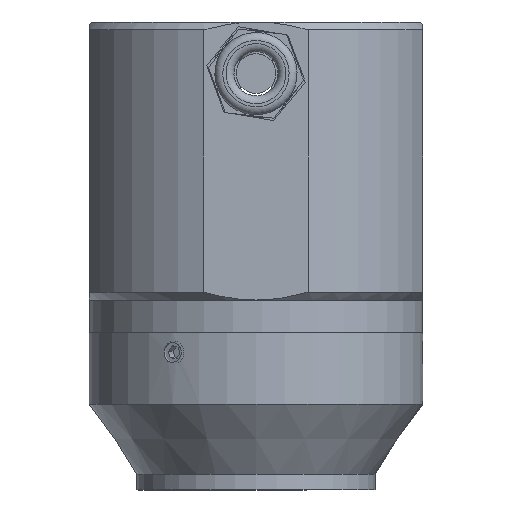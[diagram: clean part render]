
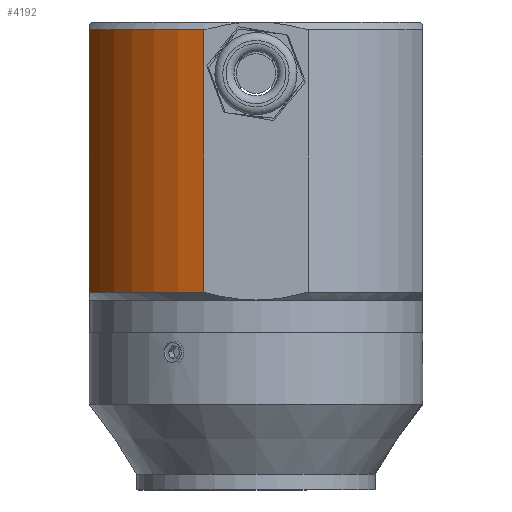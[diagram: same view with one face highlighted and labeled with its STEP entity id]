
A CAD part, left-side view. The second image highlights one B-rep face of the part: STEP entity #4192.
In plain terms, the highlighted cylindrical face has radius 22 mm (diameter 44 mm), a partial arc.
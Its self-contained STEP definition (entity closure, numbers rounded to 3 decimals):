
#43 = AXIS2_PLACEMENT_3D ( 'NONE', #1463, #3548, #1443 ) ;
#105 = DIRECTION ( 'NONE',  ( 0., 0., -1. ) ) ;
#313 = AXIS2_PLACEMENT_3D ( 'NONE', #2823, #3287, #719 ) ;
#539 = LINE ( 'NONE', #1376, #3157 ) ;
#719 = DIRECTION ( 'NONE',  ( -1., 0., 0. ) ) ;
#829 = CYLINDRICAL_SURFACE ( 'NONE', #43, 22. ) ;
#1087 = EDGE_CURVE ( 'NONE', #1324, #3731, #539, .T. ) ;
#1099 = DIRECTION ( 'NONE',  ( 1., 0., 0. ) ) ;
#1324 = VERTEX_POINT ( 'NONE', #1400 ) ;
#1345 = CARTESIAN_POINT ( 'NONE',  ( 11.248, 2739.291, 19.515 ) ) ;
#1376 = CARTESIAN_POINT ( 'NONE',  ( -3.195, 2724.848, 19.515 ) ) ;
#1400 = CARTESIAN_POINT ( 'NONE',  ( -3.195, 2724.848, 18.515 ) ) ;
#1443 = DIRECTION ( 'NONE',  ( 1., 0., 0. ) ) ;
#1463 = CARTESIAN_POINT ( 'NONE',  ( 17.805, 2718.291, 19.515 ) ) ;
#1704 = EDGE_LOOP ( 'NONE', ( #3276, #4146, #3039, #2240 ) ) ;
#1914 = CARTESIAN_POINT ( 'NONE',  ( 17.805, 2718.291, -14.485 ) ) ;
#2240 = ORIENTED_EDGE ( 'NONE', *, *, #2876, .T. ) ;
#2431 = EDGE_CURVE ( 'NONE', #3628, #3731, #3059, .T. ) ;
#2686 = DIRECTION ( 'NONE',  ( 0., 0., 1. ) ) ;
#2817 = DIRECTION ( 'NONE',  ( 0., 0., 1. ) ) ;
#2823 = CARTESIAN_POINT ( 'NONE',  ( 17.805, 2718.291, 18.515 ) ) ;
#2876 = EDGE_CURVE ( 'NONE', #1324, #3513, #5311, .T. ) ;
#2918 = CARTESIAN_POINT ( 'NONE',  ( 11.248, 2739.291, 18.515 ) ) ;
#3000 = LINE ( 'NONE', #1345, #3766 ) ;
#3039 = ORIENTED_EDGE ( 'NONE', *, *, #1087, .F. ) ;
#3059 = CIRCLE ( 'NONE', #4408, 22. ) ;
#3157 = VECTOR ( 'NONE', #105, 1000. ) ;
#3276 = ORIENTED_EDGE ( 'NONE', *, *, #3564, .F. ) ;
#3287 = DIRECTION ( 'NONE',  ( 0., 0., -1. ) ) ;
#3452 = FACE_OUTER_BOUND ( 'NONE', #1704, .T. ) ;
#3513 = VERTEX_POINT ( 'NONE', #2918 ) ;
#3548 = DIRECTION ( 'NONE',  ( 0., 0., 1. ) ) ;
#3564 = EDGE_CURVE ( 'NONE', #3628, #3513, #3000, .T. ) ;
#3628 = VERTEX_POINT ( 'NONE', #3877 ) ;
#3731 = VERTEX_POINT ( 'NONE', #5299 ) ;
#3766 = VECTOR ( 'NONE', #2686, 1000. ) ;
#3877 = CARTESIAN_POINT ( 'NONE',  ( 11.248, 2739.291, -14.485 ) ) ;
#4146 = ORIENTED_EDGE ( 'NONE', *, *, #2431, .T. ) ;
#4192 = ADVANCED_FACE ( 'NONE', ( #3452 ), #829, .T. ) ;
#4408 = AXIS2_PLACEMENT_3D ( 'NONE', #1914, #2817, #1099 ) ;
#5299 = CARTESIAN_POINT ( 'NONE',  ( -3.195, 2724.848, -14.485 ) ) ;
#5311 = CIRCLE ( 'NONE', #313, 22. ) ;
